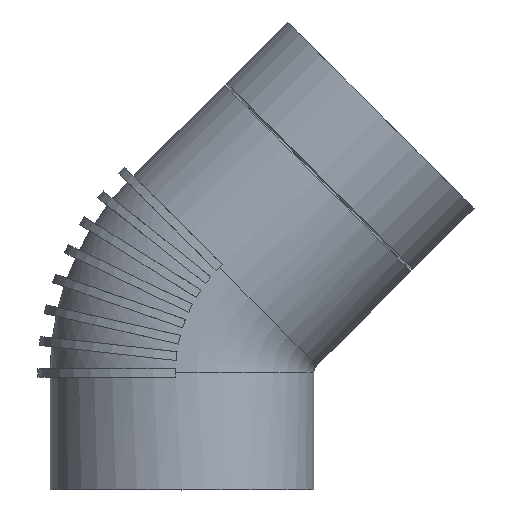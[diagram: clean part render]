
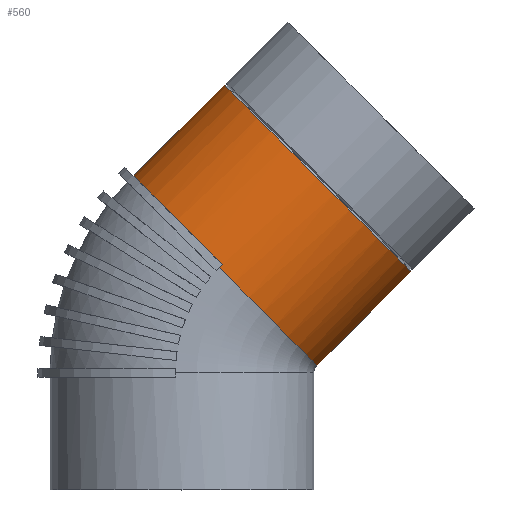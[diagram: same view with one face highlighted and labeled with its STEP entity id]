
A CAD part, top view. The second image highlights one B-rep face of the part: STEP entity #560.
In plain terms, the highlighted cylindrical face has radius 37.5 mm (diameter 75 mm), a full revolution.
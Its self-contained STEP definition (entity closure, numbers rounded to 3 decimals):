
#76=LINE($,#806,#80);
#77=LINE($,#810,#81);
#80=VECTOR($,#674,1.26);
#81=VECTOR($,#677,1.26);
#84=CYLINDRICAL_SURFACE($,#601,37.5);
#99=FACE_BOUND($,#154,.T.);
#117=FACE_OUTER_BOUND($,#153,.T.);
#153=EDGE_LOOP($,(#370,#371,#372,#373));
#154=EDGE_LOOP($,(#374));
#203=CIRCLE($,#600,37.5);
#204=CIRCLE($,#602,37.5);
#205=CIRCLE($,#603,37.5);
#232=VERTEX_POINT($,#801);
#233=VERTEX_POINT($,#804);
#234=VERTEX_POINT($,#805);
#235=VERTEX_POINT($,#807);
#236=VERTEX_POINT($,#809);
#291=EDGE_CURVE($,#232,#232,#203,.T.);
#292=EDGE_CURVE($,#233,#234,#76,.T.);
#293=EDGE_CURVE($,#235,#234,#204,.T.);
#294=EDGE_CURVE($,#235,#236,#77,.T.);
#295=EDGE_CURVE($,#236,#233,#205,.T.);
#370=ORIENTED_EDGE($,*,*,#292,.T.);
#371=ORIENTED_EDGE($,*,*,#293,.F.);
#372=ORIENTED_EDGE($,*,*,#294,.T.);
#373=ORIENTED_EDGE($,*,*,#295,.T.);
#374=ORIENTED_EDGE($,*,*,#291,.T.);
#560=ADVANCED_FACE($,(#117,#99),#84,.T.);
#600=AXIS2_PLACEMENT_3D($,#802,#670,#671);
#601=AXIS2_PLACEMENT_3D($,#803,#672,#673);
#602=AXIS2_PLACEMENT_3D($,#808,#675,#676);
#603=AXIS2_PLACEMENT_3D($,#811,#678,#679);
#670=DIRECTION('center_axis',(-0.707,-0.707,0.));
#671=DIRECTION('ref_axis',(0.707,-0.707,0.));
#672=DIRECTION('center_axis',(-0.707,-0.707,0.));
#673=DIRECTION('ref_axis',(0.707,-0.707,0.));
#674=DIRECTION($,(-0.707,-0.707,0.));
#675=DIRECTION('center_axis',(-0.707,-0.707,0.));
#676=DIRECTION('ref_axis',(0.707,-0.707,0.));
#677=DIRECTION($,(0.707,0.707,0.));
#678=DIRECTION('center_axis',(0.707,0.707,0.));
#679=DIRECTION('ref_axis',(0.707,-0.707,0.));
#801=CARTESIAN_POINT('',(65.101,62.068,0.));
#802=CARTESIAN_POINT('Origin',(38.585,88.585,0.));
#803=CARTESIAN_POINT('Origin',(34.215,84.215,0.));
#804=CARTESIAN_POINT('',(11.48,64.026,37.457));
#805=CARTESIAN_POINT('',(10.589,63.135,37.457));
#806=CARTESIAN_POINT($,(10.589,63.135,37.457));
#807=CARTESIAN_POINT('',(10.589,63.135,-37.457));
#808=CARTESIAN_POINT('Origin',(11.862,61.862,0.));
#809=CARTESIAN_POINT('',(11.48,64.026,-37.457));
#810=CARTESIAN_POINT($,(10.589,63.135,-37.457));
#811=CARTESIAN_POINT('Origin',(12.753,62.753,0.));
